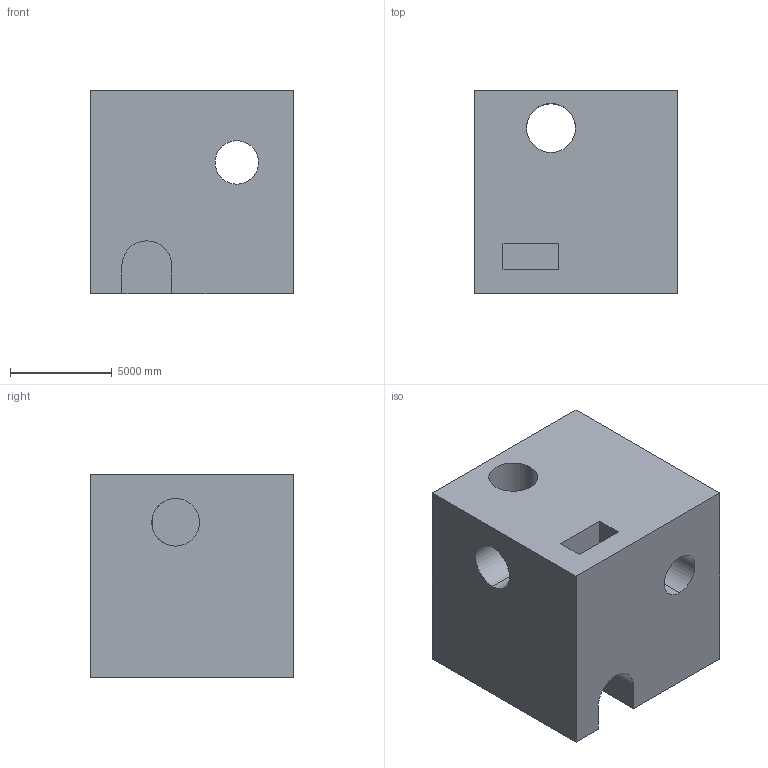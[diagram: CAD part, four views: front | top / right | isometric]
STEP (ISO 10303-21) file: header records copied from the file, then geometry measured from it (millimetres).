
FILE_DESCRIPTION (( 'STEP AP203' ), '1' );
FILE_NAME ('522.STEP', '2022-08-04T14:29:07', ( 'user' ), ( '' ), 'SwSTEP 2.0', 'SolidWorks 2021', '' );
FILE_SCHEMA (( 'CONFIG_CONTROL_DESIGN' ));
Length unit declared in the file: centimetre
Products named in the file (1): 522
Bounding box: 10000 x 10000 x 10000 mm (x, y, z)
Volume: 856851496354.5 mm3; surface area: 824088355.4 mm2
Topology: 1 solids, 1 shells, 26 faces, 69 edges, 46 vertices
Faces by surface type: plane 19, cylinder 7
Entity records: 964 total; most frequent: CARTESIAN_POINT 211, ORIENTED_EDGE 138, DIRECTION 137, EDGE_CURVE 69, VECTOR 53, LINE 53, VERTEX_POINT 46, AXIS2_PLACEMENT_3D 42
